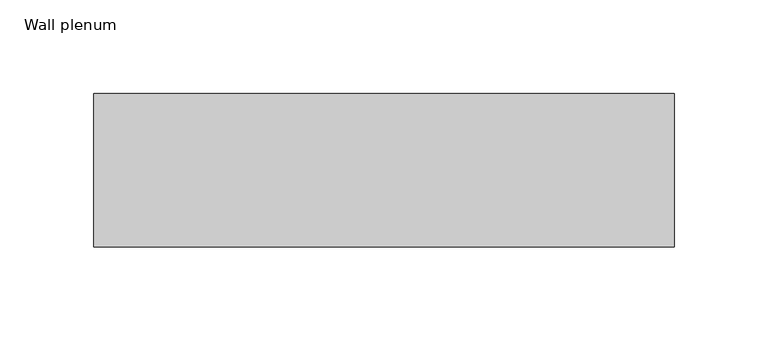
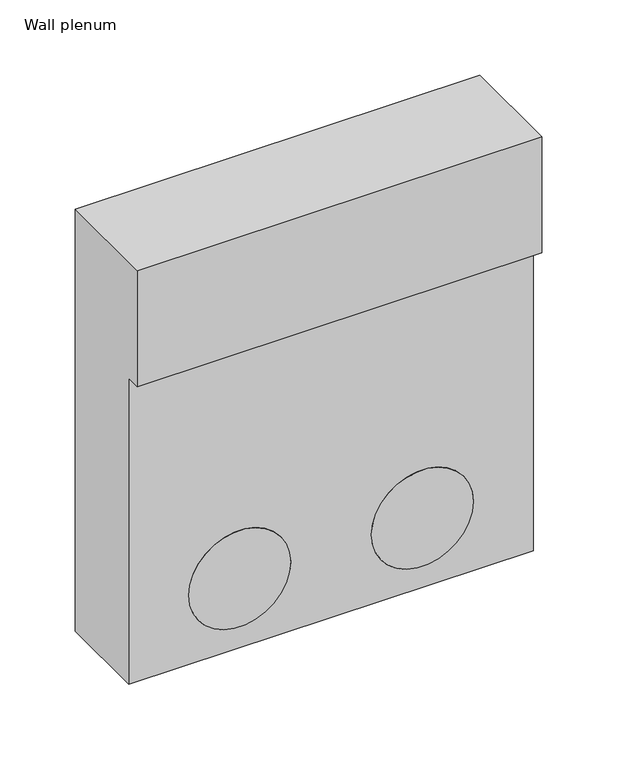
"""IFC4 building model written with IfcOpenShell, lengths in millimetres: air terminal geometry, NLRS_57_AIR_LB_wall_floor mounted plenum with grill_M&G : Wall plenum."""

from ifc_helpers import new_model, si_unit, point, frame, frame_2d, origin, place, context, project, spatial, polyline, circle_curve, trimmed, segment, composite_curve, outline, extrude, source, transform, mapped, element, save
from ifc_brep_helpers import plane_surface, revolved_surface, advanced_brep


def wall_plenum_3c2bf3b1(model_context):
    return source(origin(), model_context, "Body", "SolidModel", [
        extrude(outline(composite_curve([segment(trimmed(circle_curve(frame_2d((56.0, -70.0)), 39.0), [point((56.0, -31.0))], [point((56.0, -109.0))], False, "CARTESIAN"), True, "CONTINUOUS"), segment(trimmed(circle_curve(frame_2d((56.0, -70.0)), 39.0), [point((56.0, -109.0))], [point((56.0, -31.0))], False, "CARTESIAN"), True, "CONTINUOUS")], self_intersect=False)), frame((0.0, -35.5, 0.0), z_axis=(0.0, 1.0, 0.0), x_axis=(0.0, 0.0, 1.0)), (0.0, 0.0, 1.0), 5.0),
        extrude(outline(composite_curve([segment(trimmed(circle_curve(frame_2d((56.0, 70.0)), 39.0), [point((56.0, 109.0))], [point((56.0, 31.0))], False, "CARTESIAN"), True, "CONTINUOUS"), segment(trimmed(circle_curve(frame_2d((56.0, 70.0)), 39.0), [point((56.0, 31.0))], [point((56.0, 109.0))], False, "CARTESIAN"), True, "CONTINUOUS")], self_intersect=False)), frame((0.0, -35.5, 0.0), z_axis=(0.0, 1.0, 0.0), x_axis=(0.0, 0.0, 1.0)), (0.0, 0.0, 1.0), 5.0),
        advanced_brep(
        [(155.0, 35.5, 342.0), (-155.0, 35.5, 342.0), (-155.0, -46.5, 342.0), (155.0, -46.5, 342.0), (155.0, 35.5, 0.0), (155.0, -35.5, 0.0), (-155.0, -35.5, 0.0), (-155.0, 35.5, 0.0), (-155.0, -35.5, 248.0), (-155.0, -46.5, 248.0), (155.0, -35.5, 248.0), (-109.0, -35.5, 56.0), (-31.0, -35.5, 56.0), (31.0, -35.5, 56.0), (109.0, -35.5, 56.0), (155.0, -46.5, 248.0), (-31.0, -30.5, 56.0), (-109.0, -30.5, 56.0), (109.0, -30.5, 56.0), (31.0, -30.5, 56.0)],
        [
            (0, 1),
            (1, 2),
            (2, 3),
            (3, 0),
            (4, 5),
            (5, 6),
            (6, 7),
            (7, 4),
            (7, 1),
            (0, 4),
            (6, 8),
            (8, 9),
            (9, 2),
            (5, 10),
            (10, 8),
            (11, 12, circle_curve(frame((-70.0, -35.5, 56.0), z_axis=(0.0, 1.0, 0.0), x_axis=(-1.0, 0.0, 0.0)), 39.0)),
            (12, 11, circle_curve(frame((-70.0, -35.5, 56.0), z_axis=(0.0, 1.0, 0.0), x_axis=(-1.0, 0.0, 0.0)), 39.0)),
            (13, 14, circle_curve(frame((70.0, -35.5, 56.0), z_axis=(0.0, 1.0, 0.0), x_axis=(-1.0, 0.0, 0.0)), 39.0)),
            (14, 13, circle_curve(frame((70.0, -35.5, 56.0), z_axis=(0.0, 1.0, 0.0), x_axis=(-1.0, 0.0, 0.0)), 39.0)),
            (3, 15),
            (15, 10),
            (9, 15),
            (16, 17, circle_curve(frame((-70.0, -30.5, 56.0), z_axis=(0.0, -1.0, 0.0), x_axis=(-1.0, 0.0, 0.0)), 39.0)),
            (17, 16, circle_curve(frame((-70.0, -30.5, 56.0), z_axis=(0.0, -1.0, 0.0), x_axis=(-1.0, 0.0, 0.0)), 39.0)),
            (18, 19, circle_curve(frame((70.0, -30.5, 56.0), z_axis=(0.0, -1.0, 0.0), x_axis=(-1.0, 0.0, 0.0)), 39.0)),
            (19, 18, circle_curve(frame((70.0, -30.5, 56.0), z_axis=(0.0, -1.0, 0.0), x_axis=(-1.0, 0.0, 0.0)), 39.0)),
            (16, 12),
            (11, 17),
            (18, 14),
            (13, 19),
        ],
        [
            plane_surface(frame((-155.0, 35.5, 342.0), z_axis=(0.0, 0.0, 1.0), x_axis=(-1.0, 0.0, 0.0))),
            plane_surface(frame((-155.0, 35.5, 0.0), z_axis=(0.0, 0.0, -1.0), x_axis=(1.0, 0.0, 0.0))),
            plane_surface(frame((155.0, 35.5, 342.0), z_axis=(0.0, 1.0, 0.0), x_axis=(0.0, 0.0, -1.0))),
            plane_surface(frame((-155.0, 35.5, 342.0), z_axis=(-1.0, 0.0, 0.0), x_axis=(0.0, 0.0, -1.0))),
            plane_surface(frame((-155.0, -35.5, 342.0), z_axis=(0.0, -1.0, 0.0), x_axis=(0.0, 0.0, -1.0))),
            plane_surface(frame((155.0, -35.5, 342.0), z_axis=(1.0, 0.0, 0.0), x_axis=(0.0, 0.0, -1.0))),
            plane_surface(frame((155.0, -46.5, 342.0), z_axis=(0.0, -1.0, 0.0), x_axis=(-1.0, 0.0, 0.0))),
            plane_surface(frame((155.0, -46.5, 248.0), z_axis=(0.0, 0.0, -1.0), x_axis=(-1.0, 0.0, 0.0))),
            plane_surface(frame((-109.0, -30.5, 56.0), z_axis=(0.0, -1.0, 0.0), x_axis=(0.0, 0.0, 1.0))),
            revolved_surface(polyline([(-109.0, -30.5, 56.0), (-109.0, -35.5, 56.0)]), (-70.0, -35.5, 56.0), (0.0, 1.0, 0.0)),
            revolved_surface(polyline([(31.0, -30.5, 56.0), (31.0, -35.5, 56.0)]), (70.0, -35.5, 56.0), (0.0, 1.0, 0.0)),
        ],
        [
            (0, [[1, 2, 3, 4]]),
            (1, [[5, 6, 7, 8]]),
            (2, [[9, -1, 10, -8]]),
            (3, [[-2, -9, -7, 11, 12, 13]]),
            (4, [[-6, 14, 15, -11], [16, 17], [18, 19]]),
            (5, [[-4, 20, 21, -14, -5, -10]]),
            (6, [[-20, -3, -13, 22]]),
            (7, [[-22, -12, -15, -21]]),
            (8, [[23, 24]]),
            (8, [[25, 26]]),
            (9, [[-23, 27, -16, 28]]),
            (9, [[-24, -28, -17, -27]]),
            (10, [[-25, 29, -18, 30]]),
            (10, [[-26, -30, -19, -29]]),
        ],
    ),
    ])


if __name__ == "__main__":
    model = new_model("IFC4")
    model_context = context("Model", 3, world=origin())
    ifc_project = project(units=[si_unit("LENGTHUNIT", "METRE", prefix="MILLI")], contexts=[model_context])
    site = spatial("IfcSite", under=ifc_project)
    building = spatial("IfcBuilding", under=site)
    placement = place(None, origin())
    wall_plenum_shape = wall_plenum_3c2bf3b1(model_context)
    element("IfcAirTerminal", 1, ObjectType="NLRS_57_AIR_LB_wall_floor mounted plenum with grill_M&G : Wall plenum", at=placement, inside=building, context=model_context, shape_type="MappedRepresentation", body=[
        mapped(wall_plenum_shape, transform((0.0, 0.0, 0.0), x_axis=(1.0, 0.0, 0.0), y_axis=(0.0, 1.0, 0.0), z_axis=(0.0, 0.0, 1.0))),
    ])
    save(model, "model.ifc")
